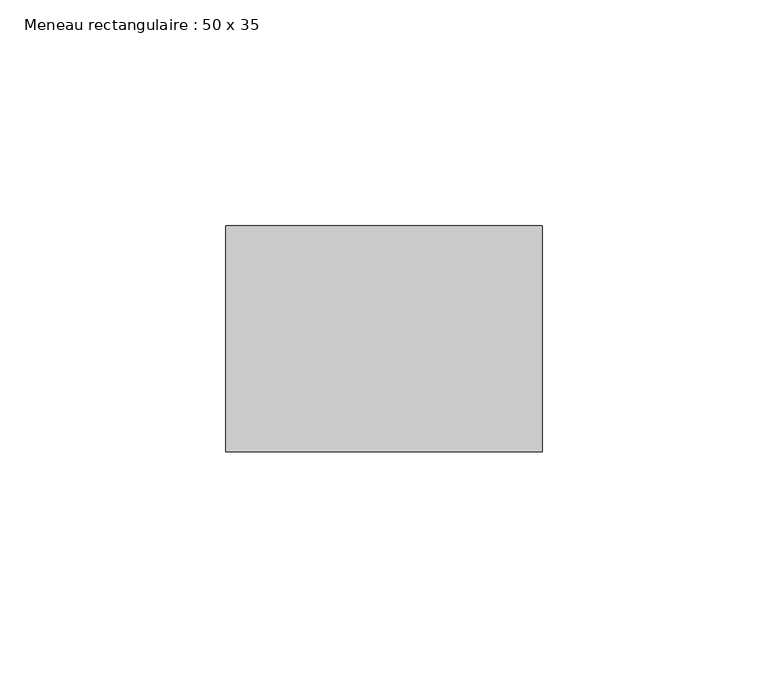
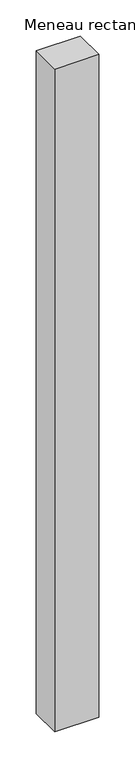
"""IFC4 building model written with IfcOpenShell, lengths in millimetres: member geometry, Meneau rectangulaire : 50 x 35."""

from ifc_helpers import new_model, si_unit, frame, origin, place, context, project, spatial, polyline, outline, extrude, source, transform, mapped, element, save


def meneau_rectangulaire_50_x_35_2d95c182(model_context):
    return source(origin(), model_context, "Body", "SweptSolid", [
        extrude(outline(polyline([(35.0, 0.0), (35.0, -50.0), (-35.0, -50.0), (-35.0, 0.0), (35.0, 0.0)])), frame((0.0, 0.0, -1112.5606896), z_axis=(0.0, 0.0, 1.0), x_axis=(1.0, 0.0, 0.0)), (0.0, 0.0, 1.0), 1112.5606896),
    ])


if __name__ == "__main__":
    model = new_model("IFC4")
    model_context = context("Model", 3, world=origin())
    ifc_project = project(units=[si_unit("LENGTHUNIT", "METRE", prefix="MILLI")], contexts=[model_context])
    site = spatial("IfcSite", under=ifc_project)
    building = spatial("IfcBuilding", under=site)
    placement = place(None, origin())
    meneau_rectangulaire_50_x_35_shape = meneau_rectangulaire_50_x_35_2d95c182(model_context)
    element("IfcMember", 1, ObjectType="Meneau rectangulaire : 50 x 35", at=placement, inside=building, context=model_context, shape_type="MappedRepresentation", body=[
        mapped(meneau_rectangulaire_50_x_35_shape, transform((0.0, 0.0, 0.0), x_axis=(1.0, 0.0, 0.0), y_axis=(0.0, 1.0, 0.0), z_axis=(0.0, 0.0, 1.0))),
    ])
    save(model, "model.ifc")
